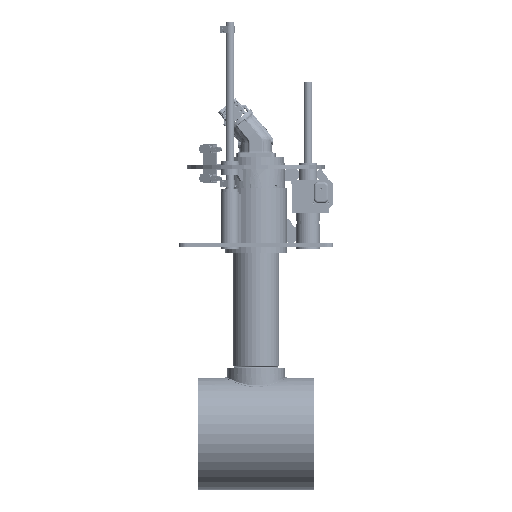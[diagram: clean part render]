
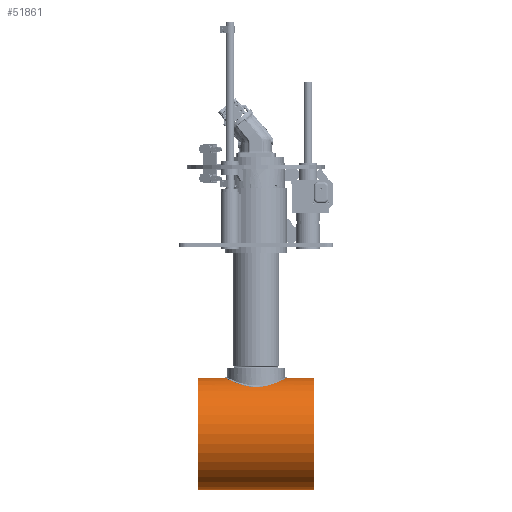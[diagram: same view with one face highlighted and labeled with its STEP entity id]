
A CAD part, front view. The second image highlights one B-rep face of the part: STEP entity #51861.
In plain terms, the highlighted cylindrical face has radius 270 mm (diameter 540 mm), a full revolution.
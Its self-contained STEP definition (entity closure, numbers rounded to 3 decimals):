
#2358=LINE('',#85516,#4881);
#4881=VECTOR('',#66833,270.);
#6545=CYLINDRICAL_SURFACE('',#56428,270.);
#7667=FACE_BOUND('',#12646,.T.);
#9195=FACE_OUTER_BOUND('',#12645,.T.);
#12645=EDGE_LOOP('',(#38058,#38059,#38060,#38061));
#12646=EDGE_LOOP('',(#38062,#38063));
#14887=B_SPLINE_CURVE_WITH_KNOTS('',3,(#85271,#85272,#85273,#85274,#85275,
#85276,#85277,#85278,#85279,#85280,#85281,#85282,#85283,#85284,#85285,#85286,
#85287,#85288,#85289,#85290,#85291,#85292,#85293,#85294,#85295,#85296,#85297,
#85298,#85299,#85300,#85301,#85302,#85303,#85304,#85305,#85306,#85307,#85308,
#85309),.UNSPECIFIED.,.F.,.F.,(4,2,2,2,2,2,2,2,2,3,2,2,2,2,2,2,2,2,4),(69.088,
71.961,74.833,77.706,80.578,83.463,
86.348,89.233,90.675,92.118,93.56,
95.003,97.888,100.773,103.658,106.53,
109.402,112.275,115.147),.UNSPECIFIED.);
#14888=B_SPLINE_CURVE_WITH_KNOTS('',3,(#85310,#85311,#85312,#85313,#85314,
#85315,#85316,#85317,#85318,#85319,#85320,#85321,#85322,#85323,#85324,#85325,
#85326,#85327,#85328,#85329,#85330,#85331,#85332,#85333,#85334,#85335,#85336,
#85337,#85338,#85339,#85340,#85341,#85342,#85343,#85344,#85345,#85346,#85347),
 .UNSPECIFIED.,.F.,.F.,(4,2,2,2,2,2,2,2,2,2,2,2,2,2,2,2,2,2,4),(23.029,
25.902,28.774,31.647,34.519,37.404,
40.289,43.174,44.617,46.059,47.501,
48.944,51.829,54.714,57.599,60.471,
63.344,66.216,69.088),.UNSPECIFIED.);
#17433=CIRCLE('',#56415,270.);
#17435=CIRCLE('',#56418,270.);
#21763=VERTEX_POINT('',#85268);
#21764=VERTEX_POINT('',#85270);
#21765=VERTEX_POINT('',#85392);
#21767=VERTEX_POINT('',#85397);
#27647=EDGE_CURVE('',#21764,#21763,#14887,.T.);
#27648=EDGE_CURVE('',#21763,#21764,#14888,.T.);
#27650=EDGE_CURVE('',#21765,#21765,#17433,.T.);
#27652=EDGE_CURVE('',#21767,#21767,#17435,.T.);
#27668=EDGE_CURVE('',#21765,#21767,#2358,.T.);
#38058=ORIENTED_EDGE('',*,*,#27650,.T.);
#38059=ORIENTED_EDGE('',*,*,#27668,.T.);
#38060=ORIENTED_EDGE('',*,*,#27652,.T.);
#38061=ORIENTED_EDGE('',*,*,#27668,.F.);
#38062=ORIENTED_EDGE('',*,*,#27648,.T.);
#38063=ORIENTED_EDGE('',*,*,#27647,.T.);
#51861=ADVANCED_FACE('',(#9195,#7667),#6545,.T.);
#56415=AXIS2_PLACEMENT_3D('',#85393,#66803,#66804);
#56418=AXIS2_PLACEMENT_3D('',#85398,#66809,#66810);
#56428=AXIS2_PLACEMENT_3D('',#85515,#66831,#66832);
#66803=DIRECTION('center_axis',(-1.,0.,
0.));
#66804=DIRECTION('ref_axis',(0.,-1.,0.));
#66809=DIRECTION('center_axis',(1.,0.,0.));
#66810=DIRECTION('ref_axis',(0.,-1.,0.));
#66831=DIRECTION('center_axis',(1.,0.,0.));
#66832=DIRECTION('ref_axis',(0.,-1.,0.));
#66833=DIRECTION('',(-1.,0.,0.));
#85268=CARTESIAN_POINT('',(-149.,-0.003,-628.));
#85270=CARTESIAN_POINT('',(149.,0.003,-628.));
#85271=CARTESIAN_POINT('Ctrl Pts',(149.,0.003,
-628.));
#85272=CARTESIAN_POINT('Ctrl Pts',(149.,-9.572,-628.));
#85273=CARTESIAN_POINT('Ctrl Pts',(148.063,-19.409,-628.521));
#85274=CARTESIAN_POINT('Ctrl Pts',(144.188,-38.848,-630.631));
#85275=CARTESIAN_POINT('Ctrl Pts',(141.252,-48.45,-632.218));
#85276=CARTESIAN_POINT('Ctrl Pts',(133.58,-66.753,-636.215));
#85277=CARTESIAN_POINT('Ctrl Pts',(128.837,-75.472,-638.626));
#85278=CARTESIAN_POINT('Ctrl Pts',(117.971,-91.531,-643.849));
#85279=CARTESIAN_POINT('Ctrl Pts',(111.847,-98.871,-646.656));
#85280=CARTESIAN_POINT('Ctrl Pts',(98.848,-111.87,-652.166));
#85281=CARTESIAN_POINT('Ctrl Pts',(91.494,-117.999,-655.074));
#85282=CARTESIAN_POINT('Ctrl Pts',(75.44,-128.855,-660.654));
#85283=CARTESIAN_POINT('Ctrl Pts',(66.741,-133.584,-663.32));
#85284=CARTESIAN_POINT('Ctrl Pts',(48.479,-141.24,-667.846));
#85285=CARTESIAN_POINT('Ctrl Pts',(38.899,-144.174,-669.704));
#85286=CARTESIAN_POINT('Ctrl Pts',(24.327,-147.084,-671.577));
#85287=CARTESIAN_POINT('Ctrl Pts',(19.436,-147.808,-672.051));
#85288=CARTESIAN_POINT('Ctrl Pts',(9.679,-148.766,-672.68));
#85289=CARTESIAN_POINT('Ctrl Pts',(4.812,-149.,-672.836));
#85290=CARTESIAN_POINT('Ctrl Pts',(0.003,-149.,
-672.836));
#85291=CARTESIAN_POINT('Ctrl Pts',(-4.805,-149.,
-672.836));
#85292=CARTESIAN_POINT('Ctrl Pts',(-9.672,-148.767,-672.68));
#85293=CARTESIAN_POINT('Ctrl Pts',(-19.43,-147.809,
-672.051));
#85294=CARTESIAN_POINT('Ctrl Pts',(-24.32,-147.085,-671.577));
#85295=CARTESIAN_POINT('Ctrl Pts',(-38.892,-144.175,
-669.704));
#85296=CARTESIAN_POINT('Ctrl Pts',(-48.473,-141.242,
-667.846));
#85297=CARTESIAN_POINT('Ctrl Pts',(-66.735,-133.587,
-663.32));
#85298=CARTESIAN_POINT('Ctrl Pts',(-75.435,-128.858,-660.654));
#85299=CARTESIAN_POINT('Ctrl Pts',(-91.488,-118.003,
-655.074));
#85300=CARTESIAN_POINT('Ctrl Pts',(-98.843,-111.875,
-652.166));
#85301=CARTESIAN_POINT('Ctrl Pts',(-111.842,-98.876,
-646.656));
#85302=CARTESIAN_POINT('Ctrl Pts',(-117.967,-91.536,
-643.849));
#85303=CARTESIAN_POINT('Ctrl Pts',(-128.834,-75.478,
-638.626));
#85304=CARTESIAN_POINT('Ctrl Pts',(-133.577,-66.759,
-636.215));
#85305=CARTESIAN_POINT('Ctrl Pts',(-141.25,-48.456,-632.218));
#85306=CARTESIAN_POINT('Ctrl Pts',(-144.186,-38.854,
-630.631));
#85307=CARTESIAN_POINT('Ctrl Pts',(-148.062,-19.415,
-628.521));
#85308=CARTESIAN_POINT('Ctrl Pts',(-149.,-9.578,
-628.));
#85309=CARTESIAN_POINT('Ctrl Pts',(-149.,-0.003,
-628.));
#85310=CARTESIAN_POINT('Ctrl Pts',(-149.,-0.003,
-628.));
#85311=CARTESIAN_POINT('Ctrl Pts',(-149.,9.572,-628.));
#85312=CARTESIAN_POINT('Ctrl Pts',(-148.063,19.409,-628.521));
#85313=CARTESIAN_POINT('Ctrl Pts',(-144.188,38.848,-630.631));
#85314=CARTESIAN_POINT('Ctrl Pts',(-141.252,48.45,-632.218));
#85315=CARTESIAN_POINT('Ctrl Pts',(-133.58,66.753,-636.215));
#85316=CARTESIAN_POINT('Ctrl Pts',(-128.837,75.472,-638.626));
#85317=CARTESIAN_POINT('Ctrl Pts',(-117.971,91.531,-643.849));
#85318=CARTESIAN_POINT('Ctrl Pts',(-111.847,98.871,-646.656));
#85319=CARTESIAN_POINT('Ctrl Pts',(-98.848,111.87,-652.166));
#85320=CARTESIAN_POINT('Ctrl Pts',(-91.494,117.999,-655.074));
#85321=CARTESIAN_POINT('Ctrl Pts',(-75.44,128.855,-660.654));
#85322=CARTESIAN_POINT('Ctrl Pts',(-66.741,133.584,-663.32));
#85323=CARTESIAN_POINT('Ctrl Pts',(-48.479,141.24,-667.846));
#85324=CARTESIAN_POINT('Ctrl Pts',(-38.899,144.174,-669.704));
#85325=CARTESIAN_POINT('Ctrl Pts',(-24.327,147.084,-671.577));
#85326=CARTESIAN_POINT('Ctrl Pts',(-19.436,147.808,-672.051));
#85327=CARTESIAN_POINT('Ctrl Pts',(-9.679,148.766,-672.68));
#85328=CARTESIAN_POINT('Ctrl Pts',(-4.812,149.,-672.836));
#85329=CARTESIAN_POINT('Ctrl Pts',(4.805,149.,-672.836));
#85330=CARTESIAN_POINT('Ctrl Pts',(9.672,148.767,-672.68));
#85331=CARTESIAN_POINT('Ctrl Pts',(19.43,147.809,-672.051));
#85332=CARTESIAN_POINT('Ctrl Pts',(24.32,147.085,-671.577));
#85333=CARTESIAN_POINT('Ctrl Pts',(38.892,144.175,-669.704));
#85334=CARTESIAN_POINT('Ctrl Pts',(48.473,141.242,-667.846));
#85335=CARTESIAN_POINT('Ctrl Pts',(66.735,133.587,-663.32));
#85336=CARTESIAN_POINT('Ctrl Pts',(75.435,128.858,-660.654));
#85337=CARTESIAN_POINT('Ctrl Pts',(91.488,118.003,-655.074));
#85338=CARTESIAN_POINT('Ctrl Pts',(98.843,111.875,-652.166));
#85339=CARTESIAN_POINT('Ctrl Pts',(111.842,98.876,-646.656));
#85340=CARTESIAN_POINT('Ctrl Pts',(117.967,91.536,-643.849));
#85341=CARTESIAN_POINT('Ctrl Pts',(128.834,75.478,-638.626));
#85342=CARTESIAN_POINT('Ctrl Pts',(133.577,66.759,-636.215));
#85343=CARTESIAN_POINT('Ctrl Pts',(141.25,48.456,-632.218));
#85344=CARTESIAN_POINT('Ctrl Pts',(144.186,38.854,-630.631));
#85345=CARTESIAN_POINT('Ctrl Pts',(148.062,19.415,-628.521));
#85346=CARTESIAN_POINT('Ctrl Pts',(149.,9.578,-628.));
#85347=CARTESIAN_POINT('Ctrl Pts',(149.,0.003,
-628.));
#85392=CARTESIAN_POINT('',(277.494,270.006,-898.));
#85393=CARTESIAN_POINT('Origin',(277.5,0.006,-898.));
#85397=CARTESIAN_POINT('',(-277.506,269.994,-898.));
#85398=CARTESIAN_POINT('Origin',(-277.5,-0.006,
-898.));
#85515=CARTESIAN_POINT('Origin',(0.,0.,
-898.));
#85516=CARTESIAN_POINT('',(-0.006,270.,-898.));
